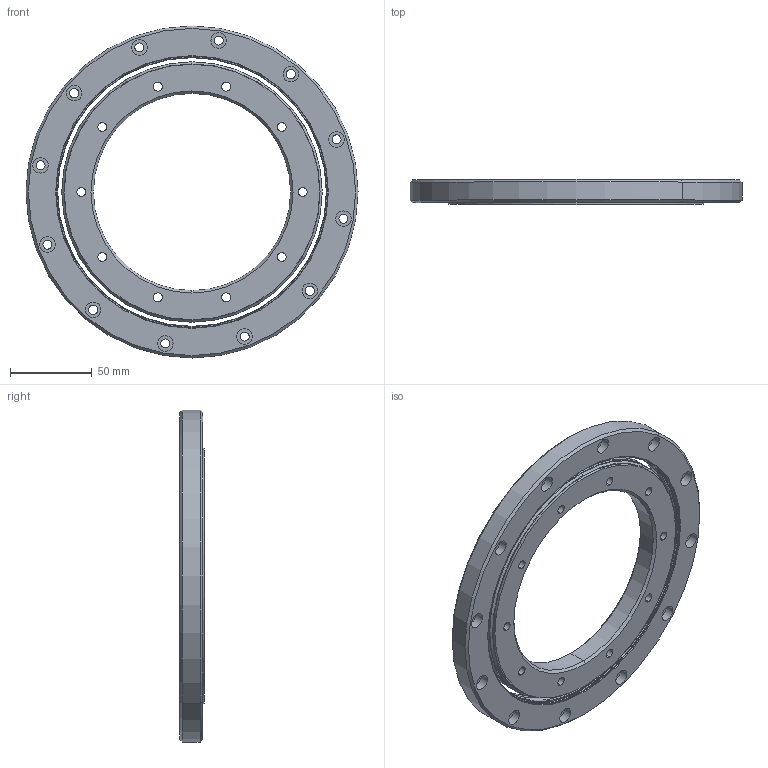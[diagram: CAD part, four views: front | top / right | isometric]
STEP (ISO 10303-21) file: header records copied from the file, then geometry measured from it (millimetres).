
FILE_DESCRIPTION (( 'STEP AP214' ), '1' );
FILE_NAME ('TTS2-121-205-15 Bearing Assembly.STEP', '2018-03-14T15:14:34', ( 'Admin' ), ( '' ), 'SwSTEP 2.0', 'SolidWorks 2018', '' );
FILE_SCHEMA (( 'AUTOMOTIVE_DESIGN' ));
Length unit declared in the file: inch
Products named in the file (3): TTS2 Outer Ring_TTS2-121-205-15; TTS2 Inner Ring_TTS2-121-205-15; TTS2-121-205-15 Bearing Assembly
Assembly tree (2 placements, depth 2):
  TTS2-121-205-15 Bearing Assembly
    TTS2 Inner Ring_TTS2-121-205-15
    TTS2 Outer Ring_TTS2-121-205-15
Bounding box: 203.2 x 15 x 203.2 mm (x, y, z)
Volume: 251562.9 mm3; surface area: 71957.2 mm2
Topology: 2 solids, 2 shells, 190 faces, 424 edges, 262 vertices
Faces by surface type: cylinder 112, cone 28, plane 28, torus 22
Entity records: 5576 total; most frequent: DIRECTION 1098, CARTESIAN_POINT 881, ORIENTED_EDGE 848, AXIS2_PLACEMENT_3D 479, EDGE_CURVE 424, CIRCLE 284, VERTEX_POINT 262, EDGE_LOOP 262
